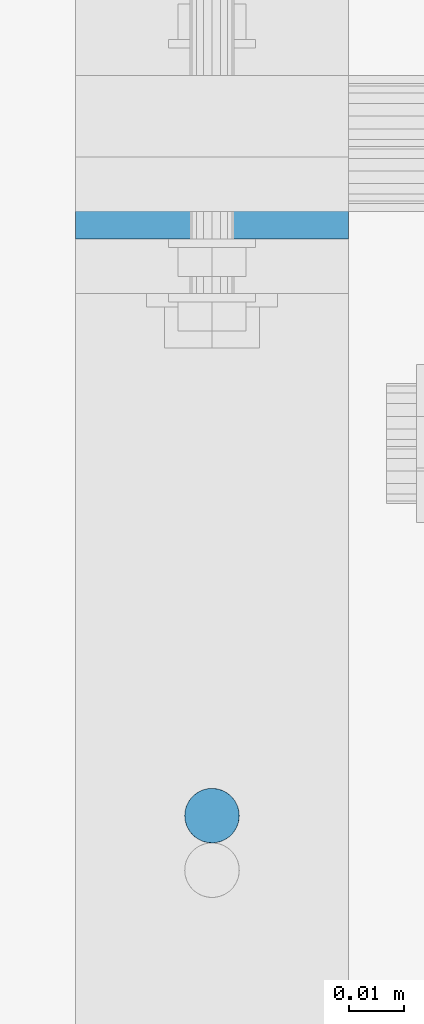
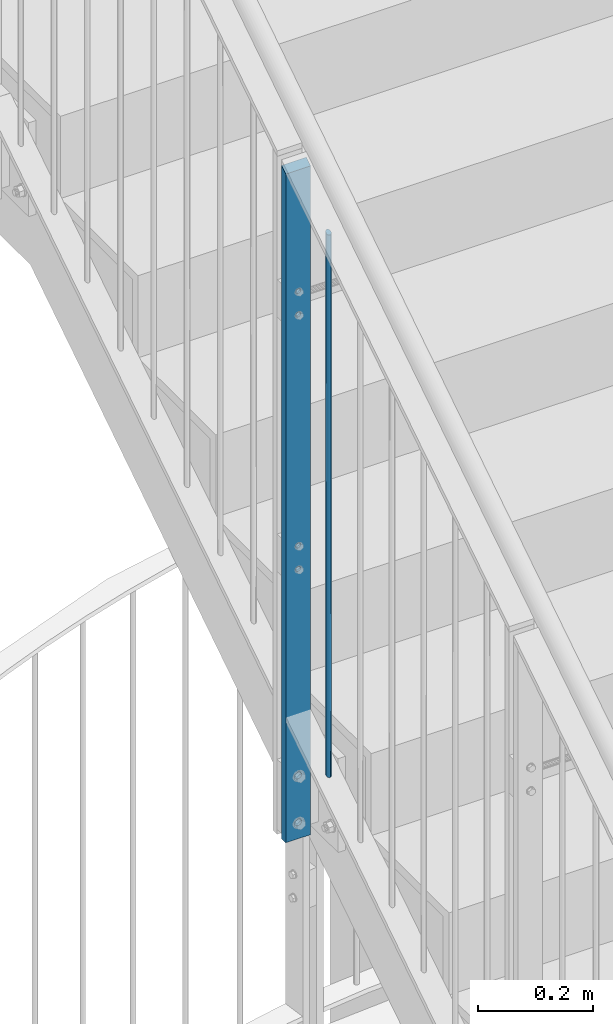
# One storey, part 20 of 296: 2 columns, 6 openings.
"""IFC2X3 building model written with IfcOpenShell, lengths in millimetres."""

from ifc_helpers import new_model, entity, si_unit, converted_unit, frame, frame_2d, origin, origin_with_axes, origin_2d, place, context, project, spatial, rectangle, circle, extrude, clip, halfspace, material, element, save


model = new_model("IFC2X3")

# Units and contexts
model_context = context("Model", 3, precision=1e-09, world=origin_with_axes())
ifc_project = project(units=[si_unit("LENGTHUNIT", "METRE", prefix="MILLI"), si_unit("AREAUNIT", "SQUARE_METRE"), si_unit("VOLUMEUNIT", "CUBIC_METRE"), converted_unit("PLANEANGLEUNIT", "DEGREE", entity("IfcPlaneAngleMeasure", 0.01745329), si_unit("PLANEANGLEUNIT", "RADIAN"), dimensions=[0, 0, 0, 0, 0, 0, 0])], contexts=[model_context])

# Site, building, storey
site_placement = place(None, origin_with_axes())
site = spatial("IfcSite", under=ifc_project, at=site_placement, Name="TZD-S?d | Treppenhausgel?nder", CompositionType="ELEMENT")
building_placement = place(site_placement, origin_with_axes())
building = spatial("IfcBuilding", under=site, at=building_placement, Name="Struktur 1", CompositionType="ELEMENT")
storey_placement = place(building_placement, origin_with_axes())
storey = spatial("IfcBuildingStorey", under=building, at=storey_placement, Name="Default Storey", CompositionType="ELEMENT", Elevation=0.0)

# Column, openings
ifc_material = material(Name="S235JR")
column_1_placement = place(None, frame((-45.0, -1575.0, 6404.999), z_axis=(0.0, 0.0, 1.0), x_axis=(0.0, 1.0, 0.0)))
column_1 = element("IfcColumn", 1, at=column_1_placement, inside=storey, material=ifc_material, Name="-", ObjectType="-", context=model_context, shape_type="Clipping", body=[
    clip(extrude(rectangle(XDim=15.0, YDim=50.0, at=origin_2d()), origin(), (0.0, 0.0, 1.0), 1460.846678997), halfspace(frame((-2457.321061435, -45.0, -155.818260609), z_axis=(0.542183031, 0.0, -0.840260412), x_axis=(0.0, 1.0, 0.0)), True)),
])
opening_1_placement = place(column_1_placement, frame((8.0, 0.0, 1141.986869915), z_axis=(-1.0, 0.0, 0.0), x_axis=(0.0, -1.0, 0.0)))
element("IfcOpeningElement", 2, at=opening_1_placement, cuts=column_1, ObjectType="Opening", context=model_context, shape_type="SweptSolid", body=[
    extrude(circle(Radius=5.001, at=frame_2d((0.0, 25.0), x_axis=(1.0, 0.0))), origin(), (0.0, 0.0, 1.0), 16.0),
])
opening_2_placement = place(column_1_placement, frame((8.0, 0.0, 1141.986869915), z_axis=(-1.0, 0.0, 0.0), x_axis=(0.0, -1.0, 0.0)))
element("IfcOpeningElement", 3, at=opening_2_placement, cuts=column_1, ObjectType="Opening", context=model_context, shape_type="SweptSolid", body=[
    extrude(circle(Radius=5.001, at=frame_2d((0.0, -25.0), x_axis=(1.0, 0.0))), origin(), (0.0, 0.0, 1.0), 16.0),
])
opening_3_placement = place(column_1_placement, frame((8.0, 0.0, 599.999999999), z_axis=(-1.0, 0.0, 0.0), x_axis=(0.0, -1.0, 0.0)))
element("IfcOpeningElement", 4, at=opening_3_placement, cuts=column_1, ObjectType="Opening", context=model_context, shape_type="SweptSolid", body=[
    extrude(circle(Radius=5.001, at=frame_2d((0.0, 25.0), x_axis=(1.0, 0.0))), origin(), (0.0, 0.0, 1.0), 16.0),
])
opening_4_placement = place(column_1_placement, frame((8.0, 0.0, 599.999999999), z_axis=(-1.0, 0.0, 0.0), x_axis=(0.0, -1.0, 0.0)))
element("IfcOpeningElement", 5, at=opening_4_placement, cuts=column_1, ObjectType="Opening", context=model_context, shape_type="SweptSolid", body=[
    extrude(circle(Radius=5.001, at=frame_2d((0.0, -25.0), x_axis=(1.0, 0.0))), origin(), (0.0, 0.0, 1.0), 16.0),
])
opening_5_placement = place(column_1_placement, frame((8.0, 0.0, 85.0), z_axis=(-1.0, 0.0, 0.0), x_axis=(0.0, -1.0, 0.0)))
element("IfcOpeningElement", 6, at=opening_5_placement, cuts=column_1, ObjectType="Opening", context=model_context, shape_type="SweptSolid", body=[
    extrude(circle(Radius=7.001, at=frame_2d((0.0, 50.0), x_axis=(1.0, 0.0))), origin(), (0.0, 0.0, 1.0), 16.0),
])
opening_6_placement = place(column_1_placement, frame((8.0, 0.0, 85.0), z_axis=(-1.0, 0.0, 0.0), x_axis=(0.0, -1.0, 0.0)))
element("IfcOpeningElement", 7, at=opening_6_placement, cuts=column_1, ObjectType="Opening", context=model_context, shape_type="SweptSolid", body=[
    extrude(circle(Radius=7.001, at=frame_2d((0.0, -50.0), x_axis=(1.0, 0.0))), origin(), (0.0, 0.0, 1.0), 16.0),
])

# Column
column_2_placement = place(None, frame((-45.0, -1688.2142857, 6591.167056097), z_axis=(0.0, 0.0, 1.0), x_axis=(0.0, 1.0, 0.0)))
element("IfcColumn", 8, at=column_2_placement, inside=storey, material=ifc_material, Name="-", ObjectType="-", context=model_context, shape_type="Clipping", body=[
    clip(clip(extrude(circle(Radius=5.0, at=origin_2d()), origin(), (0.0, 0.0, 1.0), 1184.929585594), halfspace(frame((-2344.106775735, -45.0, -341.986316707), z_axis=(0.542183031, 0.0, -0.840260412), x_axis=(0.0, 1.0, 0.0)), True)), halfspace(frame((-1817.373094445, -45.0, -1158.303749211), z_axis=(-0.542183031, 0.0, 0.840260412), x_axis=(0.0, -1.0, 0.0)), True)),
])

save(model, "model.ifc")
